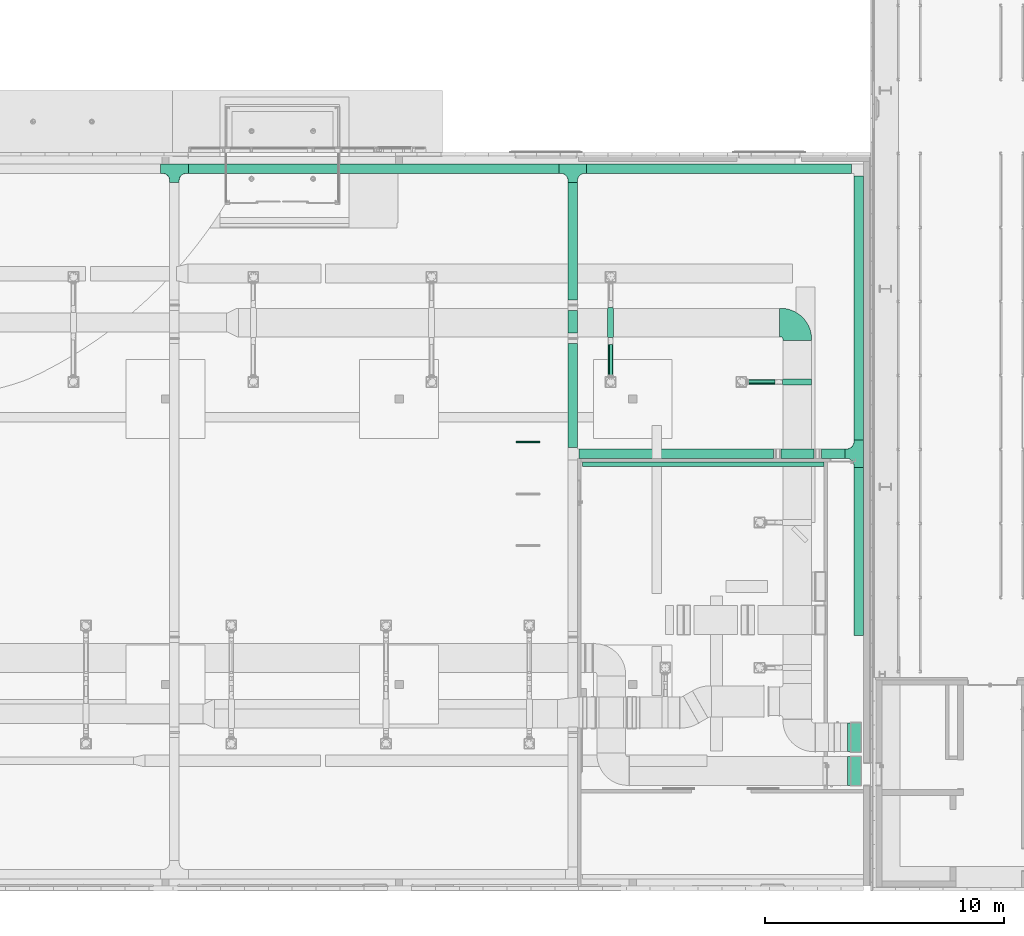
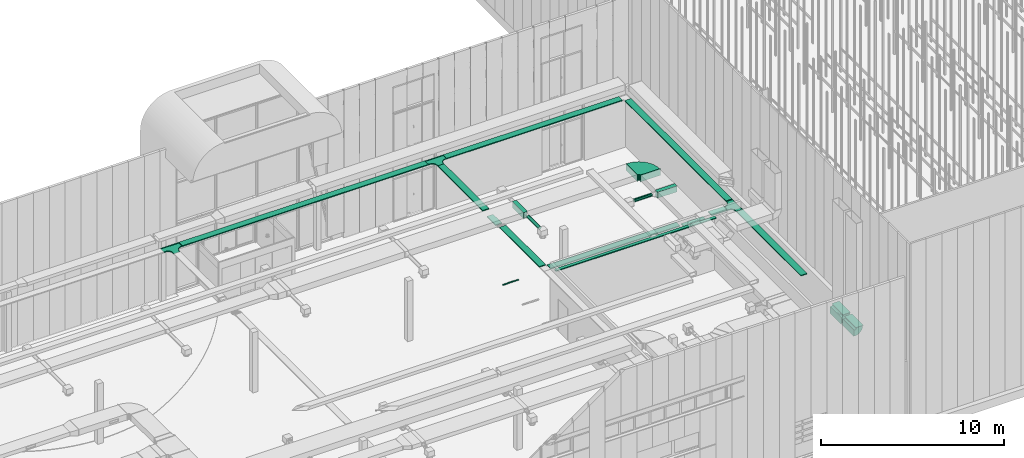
# One storey, part 257 of 302: 13 flow segments, 8 flow fittings, 1 flow terminal.
"""IFC2X3 building model written with IfcOpenShell, lengths in metres."""

from ifc_helpers import new_model, entity, si_unit, converted_unit, derived_unit, direction, frame, frame_2d, origin, origin_2d_with_axis, place, context, subcontext, project, spatial, polyline, circle_curve, parameter, trimmed, segment, composite_curve, rectangle, circle, outline, extrude, faceted_brep, source, transform, mapped, material, material_list, type_object, type_shapes, element, save


model = new_model("IFC2X3")

# Units and contexts
model_context = context("Model", 3, precision=1e-05, world=origin(), true_north=direction((6.12303176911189e-17, 1.0)))
body_context = subcontext(model_context, "Body", "Model", "MODEL_VIEW")
ifc_project = project(units=[si_unit("LENGTHUNIT", "METRE"), si_unit("AREAUNIT", "SQUARE_METRE"), si_unit("VOLUMEUNIT", "CUBIC_METRE"), converted_unit("PLANEANGLEUNIT", "DEGREE", entity("IfcRatioMeasure", 0.0174532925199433), si_unit("PLANEANGLEUNIT", "RADIAN"), dimensions=[0, 0, 0, 0, 0, 0, 0]), si_unit("MASSUNIT", "GRAM", prefix="KILO"), derived_unit("MASSDENSITYUNIT", [(si_unit("MASSUNIT", "GRAM", prefix="KILO"), 1), (si_unit("LENGTHUNIT", "METRE"), -3)]), derived_unit("MOMENTOFINERTIAUNIT", [(si_unit("LENGTHUNIT", "METRE"), 4)]), si_unit("TIMEUNIT", "SECOND"), si_unit("FREQUENCYUNIT", "HERTZ"), si_unit("THERMODYNAMICTEMPERATUREUNIT", "DEGREE_CELSIUS"), derived_unit("THERMALTRANSMITTANCEUNIT", [(si_unit("MASSUNIT", "GRAM", prefix="KILO"), 1), (si_unit("THERMODYNAMICTEMPERATUREUNIT", "KELVIN"), -1), (si_unit("TIMEUNIT", "SECOND"), -3)]), derived_unit("VOLUMETRICFLOWRATEUNIT", [(si_unit("LENGTHUNIT", "METRE"), 3), (si_unit("TIMEUNIT", "SECOND"), -1)]), si_unit("ELECTRICCURRENTUNIT", "AMPERE"), si_unit("ELECTRICVOLTAGEUNIT", "VOLT"), si_unit("POWERUNIT", "WATT"), si_unit("FORCEUNIT", "NEWTON", prefix="KILO"), si_unit("ILLUMINANCEUNIT", "LUX"), si_unit("LUMINOUSFLUXUNIT", "LUMEN"), si_unit("LUMINOUSINTENSITYUNIT", "CANDELA"), derived_unit("USERDEFINED", [(si_unit("MASSUNIT", "GRAM", prefix="KILO"), -1), (si_unit("LENGTHUNIT", "METRE"), -2), (si_unit("TIMEUNIT", "SECOND"), 3), (si_unit("LUMINOUSFLUXUNIT", "LUMEN"), 1)]), derived_unit("LINEARVELOCITYUNIT", [(si_unit("LENGTHUNIT", "METRE"), 1), (si_unit("TIMEUNIT", "SECOND"), -1)]), si_unit("PRESSUREUNIT", "PASCAL"), derived_unit("USERDEFINED", [(si_unit("LENGTHUNIT", "METRE"), -2), (si_unit("MASSUNIT", "GRAM", prefix="KILO"), 1), (si_unit("TIMEUNIT", "SECOND"), -2)]), derived_unit("LINEARFORCEUNIT", [(si_unit("MASSUNIT", "GRAM", prefix="KILO"), 1), (si_unit("LENGTHUNIT", "METRE"), 1), (si_unit("TIMEUNIT", "SECOND"), -2), (si_unit("LENGTHUNIT", "METRE"), -1)]), derived_unit("PLANARFORCEUNIT", [(si_unit("MASSUNIT", "GRAM", prefix="KILO"), 1), (si_unit("LENGTHUNIT", "METRE"), 1), (si_unit("TIMEUNIT", "SECOND"), -2), (si_unit("LENGTHUNIT", "METRE"), -2)])], contexts=[model_context])

# Site, building, storey
site_placement = place(None, origin())
site = spatial("IfcSite", under=ifc_project, at=site_placement, Name="Default", CompositionType="ELEMENT")
building_placement = place(site_placement, origin())
building = spatial("IfcBuilding", under=site, at=building_placement, CompositionType="ELEMENT")
storey_placement = place(building_placement, frame((0.0, 0.0, -1.3)))
storey = spatial("IfcBuildingStorey", under=building, at=storey_placement, Name="00_EG", CompositionType="ELEMENT", Elevation=-1.3)

# Flow terminal
ifc_material_1 = material(Name="Zumtobel_Metal_White")
light_fixture_type = type_object("IfcLightFixtureType", Name="Zumtobel TECTON C (Lamp & Reflector):TECTON C LED L1000", PredefinedType="NOTDEFINED", material=ifc_material_1)
shared_shape_1 = source(origin(), body_context, "Body", "SweptSolid", [
    extrude(outline(polyline([(-0.0195125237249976, 0.0249999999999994), (-0.0195125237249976, -0.0250000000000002), (-0.00676730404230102, -0.0250000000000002), (-0.00676730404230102, -0.0300000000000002), (0.00923269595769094, -0.0300000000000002), (0.00923269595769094, -0.0280000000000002), (0.00723269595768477, -0.0270000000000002), (0.00723269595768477, -0.00749999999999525), (0.000232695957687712, 0.0), (0.00723269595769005, 0.0074999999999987), (0.00723269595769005, 0.0269999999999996), (0.00923269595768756, 0.0280000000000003), (0.00923269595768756, 0.0299999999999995), (-0.00676730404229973, 0.0299999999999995), (-0.00676730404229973, 0.0249999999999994), (-0.0195125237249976, 0.0249999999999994)])), frame((-0.574924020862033, -0.218643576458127, -0.51951252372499), z_axis=(-1.0, 0.0, 0.0), x_axis=(0.0, 0.0, -1.0)), (0.0, 0.0, -1.0), 1.0),
])
type_shapes(light_fixture_type, [shared_shape_1])
flow_terminal_placement = place(storey_placement, frame((-221.887546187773, 33.8240924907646, 4.79999999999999)))
element("IfcFlowTerminal", 1, at=flow_terminal_placement, inside=storey, type_object=light_fixture_type, material=ifc_material_1, Name="Zumtobel TECTON C (Lamp & Reflector):TECTON C LED L1000", ObjectType="Zumtobel TECTON C (Lamp & Reflector):TECTON C LED L1000", context=body_context, shape_type="MappedRepresentation", body=[
    mapped(shared_shape_1, transform((0.0, 0.0, 0.0), scale=1.0)),
])

# Flow segments
cable_carrier_segment_type = type_object("IfcCableCarrierSegmentType", Name="Kabeltrasse mit Formteilen:Channel Cable Tray", PredefinedType="CABLETRAYSEGMENT")
flow_segment_1_placement = place(storey_placement, origin())
element("IfcFlowSegment", 2, at=flow_segment_1_placement, inside=storey, type_object=cable_carrier_segment_type, Name="Kabeltrasse mit Formteilen:Channel Cable Tray", ObjectType="Kabeltrasse mit Formteilen:Channel Cable Tray", context=body_context, shape_type="SweptSolid", body=[
    extrude(rectangle(XDim=4.3444162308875, YDim=0.399999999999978, at=frame_2d((2.22044604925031e-15, -3.46389583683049e-14), x_axis=(1.0, 0.0))), frame((-220.085111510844, 35.5512970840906, 4.82), z_axis=(0.0, 0.0, 1.0), x_axis=(0.0, -1.0, 0.0)), (0.0, 0.0, 1.0), 0.0600000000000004),
])
flow_segment_2_placement = place(storey_placement, origin())
element("IfcFlowSegment", 3, at=flow_segment_2_placement, inside=storey, type_object=cable_carrier_segment_type, Name="Kabeltrasse mit Formteilen:Channel Cable Tray", ObjectType="Kabeltrasse mit Formteilen:Channel Cable Tray", context=body_context, shape_type="SweptSolid", body=[
    extrude(rectangle(XDim=15.5274999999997, YDim=0.399999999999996, at=frame_2d((-1.73194791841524e-14, 0.0), x_axis=(1.0, 0.0))), frame((-228.428861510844, 45.0580889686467, 4.82), z_axis=(0.0, 0.0, 1.0), x_axis=(-1.0, 0.0, 0.0)), (0.0, 0.0, 1.0), 0.0600000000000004),
])
flow_segment_3_placement = place(storey_placement, origin())
element("IfcFlowSegment", 4, at=flow_segment_3_placement, inside=storey, type_object=cable_carrier_segment_type, Name="Kabeltrasse mit Formteilen:Channel Cable Tray", ObjectType="Kabeltrasse mit Formteilen:Channel Cable Tray", context=body_context, shape_type="SweptSolid", body=[
    extrude(rectangle(XDim=11.0589999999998, YDim=0.399999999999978, at=frame_2d((0.0, 1.73194791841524e-14), x_axis=(1.0, 0.0))), frame((-208.110111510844, 39.2285889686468, 4.82), z_axis=(0.0, 0.0, 1.0), x_axis=(0.0, 1.0, 0.0)), (0.0, 0.0, 1.0), 0.0599999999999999),
])
flow_segment_4_placement = place(storey_placement, origin())
element("IfcFlowSegment", 5, at=flow_segment_4_placement, inside=storey, type_object=cable_carrier_segment_type, Name="Kabeltrasse mit Formteilen:Channel Cable Tray", ObjectType="Kabeltrasse mit Formteilen:Channel Cable Tray", context=body_context, shape_type="SweptSolid", body=[
    extrude(rectangle(XDim=0.969070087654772, YDim=0.399999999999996, at=frame_2d((1.73472347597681e-14, -2.16493489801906e-15), x_axis=(1.0, 0.0))), frame((-209.174646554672, 33.1190889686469, 4.82000000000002), z_axis=(0.0, 0.0, 1.0), x_axis=(-1.0, 0.0, 0.0)), (0.0, 0.0, 1.0), 0.0600000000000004),
])
flow_segment_5_placement = place(storey_placement, origin())
element("IfcFlowSegment", 6, at=flow_segment_5_placement, inside=storey, type_object=cable_carrier_segment_type, Name="Kabeltrasse mit Formteilen:Channel Cable Tray", ObjectType="Kabeltrasse mit Formteilen:Channel Cable Tray", context=body_context, shape_type="SweptSolid", body=[
    extrude(rectangle(XDim=7.04100000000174, YDim=0.399999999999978, at=origin_2d_with_axis()), frame((-208.110111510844, 29.018588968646, 4.82), z_axis=(0.0, 0.0, 1.0), x_axis=(0.0, -1.0, 0.0)), (0.0, 0.0, 1.0), 0.0600000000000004),
])
flow_segment_6_placement = place(storey_placement, origin())
element("IfcFlowSegment", 7, at=flow_segment_6_placement, inside=storey, type_object=cable_carrier_segment_type, Name="Kabeltrasse mit Formteilen:Channel Cable Tray", ObjectType="Kabeltrasse mit Formteilen:Channel Cable Tray", context=body_context, shape_type="SweptSolid", body=[
    extrude(rectangle(XDim=10.125, YDim=0.199999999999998, at=frame_2d((1.73194791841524e-14, 2.16493489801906e-15), x_axis=(1.0, 0.0))), frame((-214.622611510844, 32.6730889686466, 4.82)), (0.0, 0.0, 1.0), 0.0600000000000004),
])
flow_segment_7_placement = place(storey_placement, origin())
element("IfcFlowSegment", 8, at=flow_segment_7_placement, inside=storey, type_object=cable_carrier_segment_type, Name="Kabeltrasse mit Formteilen:Channel Cable Tray", ObjectType="Kabeltrasse mit Formteilen:Channel Cable Tray", context=body_context, shape_type="SweptSolid", body=[
    extrude(rectangle(XDim=11.0949999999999, YDim=0.399999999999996, at=frame_2d((-1.73194791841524e-14, 4.32986979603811e-15), x_axis=(1.0, 0.0))), frame((-213.957611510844, 45.0580889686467, 4.82), z_axis=(0.0, 0.0, 1.0), x_axis=(-1.0, 0.0, 0.0)), (0.0, 0.0, 1.0), 0.0600000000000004),
])
flow_segment_8_placement = place(storey_placement, origin())
element("IfcFlowSegment", 9, at=flow_segment_8_placement, inside=storey, type_object=cable_carrier_segment_type, Name="Kabeltrasse mit Formteilen:Channel Cable Tray", ObjectType="Kabeltrasse mit Formteilen:Channel Cable Tray", context=body_context, shape_type="SweptSolid", body=[
    extrude(rectangle(XDim=4.92184122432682, YDim=0.399999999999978, at=frame_2d((0.0, -1.73194791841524e-14), x_axis=(1.0, 0.0))), frame((-220.085111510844, 42.0171683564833, 4.82), z_axis=(0.0, 0.0, 1.0), x_axis=(0.0, -1.0, 0.0)), (0.0, 0.0, 1.0), 0.0599999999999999),
])
flow_segment_9_placement = place(storey_placement, origin())
element("IfcFlowSegment", 10, at=flow_segment_9_placement, inside=storey, type_object=cable_carrier_segment_type, Name="Kabeltrasse mit Formteilen:Channel Cable Tray", ObjectType="Kabeltrasse mit Formteilen:Channel Cable Tray", context=body_context, shape_type="SweptSolid", body=[
    extrude(rectangle(XDim=0.948780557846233, YDim=0.399999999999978, at=frame_2d((0.0, -3.46389583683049e-14), x_axis=(1.0, 0.0))), frame((-220.085111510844, 38.6398764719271, 4.69999999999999), z_axis=(0.0, 0.0, 1.0), x_axis=(0.0, -1.0, 0.0)), (0.0, 0.0, 1.0), 0.0600000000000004),
])
flow_segment_10_placement = place(storey_placement, origin())
element("IfcFlowSegment", 11, at=flow_segment_10_placement, inside=storey, type_object=cable_carrier_segment_type, Name="Kabeltrasse mit Formteilen:Channel Cable Tray", ObjectType="Kabeltrasse mit Formteilen:Channel Cable Tray", context=body_context, shape_type="SweptSolid", body=[
    extrude(rectangle(XDim=8.15407008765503, YDim=0.400000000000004, at=frame_2d((1.73194791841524e-14, 4.32986979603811e-15), x_axis=(1.0, 0.0))), frame((-215.748076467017, 33.1190889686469, 4.82)), (0.0, 0.0, 1.0), 0.0600000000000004),
])
flow_segment_11_placement = place(storey_placement, origin())
element("IfcFlowSegment", 12, at=flow_segment_11_placement, inside=storey, type_object=cable_carrier_segment_type, Name="Kabeltrasse mit Formteilen:Channel Cable Tray", ObjectType="Kabeltrasse mit Formteilen:Channel Cable Tray", context=body_context, shape_type="SweptSolid", body=[
    extrude(rectangle(XDim=1.37646877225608, YDim=0.400000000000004, at=origin_2d_with_axis()), frame((-210.665111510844, 33.1190889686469, 4.60999999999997)), (0.0, 0.0, 1.0), 0.0600000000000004),
])

# Flow fittings
ifc_material_2 = material(Name="<Unnamed>")
cable_carrier_fitting_type = type_object("IfcCableCarrierFittingType", Name="Kabeltrasse - T-Stück mit Radius:300 mm Radius", PredefinedType="NOTDEFINED", material=ifc_material_2)
shared_shape_2 = source(origin(), body_context, "Body", "Brep", [
    faceted_brep([(0.38422295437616, -0.220489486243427, 0.0299999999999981), (0.3319177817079, -0.248447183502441, 0.0299999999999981), (0.286071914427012, -0.286071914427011, 0.0299999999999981), (0.248447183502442, -0.331917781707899, 0.0299999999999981), (0.220489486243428, -0.384222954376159, 0.0299999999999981), (0.203273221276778, -0.440977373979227, 0.0299999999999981), (0.197460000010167, -0.500000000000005, 0.0299999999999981), (0.197460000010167, -0.580000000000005, 0.0299999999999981), (0.200000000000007, -0.580000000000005, 0.0299999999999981), (0.200000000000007, -0.500000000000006, 0.0299999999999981), (0.205764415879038, -0.441472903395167, 0.0299999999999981), (0.222836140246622, -0.385194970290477, 0.0299999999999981), (0.250559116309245, -0.333328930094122, 0.0299999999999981), (0.287867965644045, -0.287867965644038, 0.0299999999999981), (0.33332893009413, -0.250559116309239, 0.0299999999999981), (0.385194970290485, -0.222836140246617, 0.0299999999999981), (0.441472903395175, -0.205764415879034, 0.0299999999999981), (0.50000000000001, -0.200000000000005, 0.0299999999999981), (0.580000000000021, -0.200000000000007, 0.0299999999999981), (0.580000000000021, -0.197460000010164, 0.0299999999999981), (0.500000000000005, -0.197460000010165, 0.0299999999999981), (0.440977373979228, -0.203273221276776, 0.0299999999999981), (-0.49999999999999, -0.197460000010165, 0.0299999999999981), (-0.579999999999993, -0.197460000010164, 0.0299999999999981), (-0.579999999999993, -0.200000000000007, 0.0299999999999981), (-0.500000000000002, -0.200000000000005, 0.0299999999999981), (-0.441472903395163, -0.205764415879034, 0.0299999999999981), (-0.385194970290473, -0.222836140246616, 0.0299999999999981), (-0.333328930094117, -0.250559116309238, 0.0299999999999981), (-0.287867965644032, -0.287867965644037, 0.0299999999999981), (-0.250559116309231, -0.333328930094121, 0.0299999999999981), (-0.222836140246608, -0.385194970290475, 0.0299999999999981), (-0.205764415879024, -0.441472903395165, 0.0299999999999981), (-0.199999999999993, -0.500000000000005, 0.0299999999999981), (-0.199999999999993, -0.580000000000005, 0.0299999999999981), (-0.197460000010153, -0.580000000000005, 0.0299999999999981), (-0.197460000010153, -0.500000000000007, 0.0299999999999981), (-0.203273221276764, -0.440977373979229, 0.0299999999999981), (-0.220489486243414, -0.384222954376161, 0.0299999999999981), (-0.248447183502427, -0.331917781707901, 0.0299999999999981), (-0.286071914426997, -0.286071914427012, 0.0299999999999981), (-0.331917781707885, -0.248447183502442, 0.0299999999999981), (-0.384222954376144, -0.220489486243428, 0.0299999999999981), (-0.440977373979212, -0.203273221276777, 0.0299999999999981), (0.580000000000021, 0.199999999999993, 0.0299999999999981), (-0.579999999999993, 0.199999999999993, 0.0299999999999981), (-0.579999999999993, 0.197460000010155, 0.0299999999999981), (0.580000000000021, 0.197460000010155, 0.0299999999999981), (-0.199999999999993, -0.500000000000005, -0.0300000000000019), (-0.205764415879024, -0.441472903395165, -0.0300000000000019), (-0.222836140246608, -0.385194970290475, -0.0300000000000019), (-0.250559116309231, -0.333328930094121, -0.0300000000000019), (-0.287867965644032, -0.287867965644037, -0.0300000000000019), (-0.333328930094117, -0.250559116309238, -0.0300000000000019), (-0.385194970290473, -0.222836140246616, -0.0300000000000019), (-0.441472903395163, -0.205764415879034, -0.0300000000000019), (-0.499999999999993, -0.200000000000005, -0.0300000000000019), (-0.579999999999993, -0.200000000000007, -0.0300000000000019), (-0.579999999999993, 0.199999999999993, -0.0300000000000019), (0.580000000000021, 0.199999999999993, -0.0300000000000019), (0.580000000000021, -0.200000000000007, -0.0300000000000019), (0.500000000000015, -0.200000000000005, -0.0300000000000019), (0.441472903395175, -0.205764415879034, -0.0300000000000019), (0.385194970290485, -0.222836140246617, -0.0300000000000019), (0.33332893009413, -0.250559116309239, -0.0300000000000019), (0.287867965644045, -0.287867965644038, -0.0300000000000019), (0.250559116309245, -0.333328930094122, -0.0300000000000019), (0.222836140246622, -0.385194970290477, -0.0300000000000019), (0.205764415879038, -0.441472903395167, -0.0300000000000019), (0.200000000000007, -0.500000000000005, -0.0300000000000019), (0.200000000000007, -0.580000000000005, -0.0300000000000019), (-0.199999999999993, -0.580000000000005, -0.0300000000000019), (-0.199999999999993, -0.500000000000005, -0.0274600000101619), (0.197460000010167, -0.580000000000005, -0.0274600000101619), (-0.197460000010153, -0.580000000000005, -0.0274600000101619), (-0.197460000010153, -0.500000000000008, -0.0274600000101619), (-0.203273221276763, -0.440977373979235, -0.0274600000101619), (-0.220489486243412, -0.384222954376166, -0.0274600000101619), (-0.248447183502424, -0.331917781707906, -0.0274600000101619), (-0.286071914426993, -0.286071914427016, -0.0274600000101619), (-0.33191778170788, -0.248447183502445, -0.0274600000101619), (-0.384222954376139, -0.22048948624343, -0.0274600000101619), (-0.440977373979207, -0.203273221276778, -0.0274600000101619), (-0.499999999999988, -0.197460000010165, -0.0274600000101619), (-0.579999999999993, -0.197460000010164, -0.0274600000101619), (0.580000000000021, -0.197460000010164, -0.0274600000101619), (0.500000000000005, -0.197460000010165, -0.0274600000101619), (-0.579999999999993, 0.197460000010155, -0.0274600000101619), (-0.500000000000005, -0.200000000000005, -0.0274600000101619), (0.500000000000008, -0.200000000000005, -0.0274600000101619), (0.200000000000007, -0.500000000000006, -0.0274600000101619), (0.580000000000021, 0.197460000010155, -0.0274600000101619), (0.440977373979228, -0.203273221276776, -0.0274600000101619), (0.38422295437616, -0.220489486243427, -0.0274600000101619), (0.3319177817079, -0.248447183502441, -0.0274600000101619), (0.286071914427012, -0.286071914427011, -0.0274600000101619), (0.248447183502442, -0.331917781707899, -0.0274600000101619), (0.220489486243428, -0.384222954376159, -0.0274600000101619), (0.203273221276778, -0.440977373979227, -0.0274600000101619), (0.197460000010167, -0.500000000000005, -0.0274600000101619)], [[[0, 1, 2, 3, 4, 5, 6, 7, 8, 9, 10, 11, 12, 13, 14, 15, 16, 17, 18, 19, 20, 21]], [[22, 23, 24, 25, 26, 27, 28, 29, 30, 31, 32, 33, 34, 35, 36, 37, 38, 39, 40, 41, 42, 43]], [[44, 45, 46, 47]], [[48, 49, 50, 51, 52, 53, 54, 55, 56, 57, 58, 59, 60, 61, 62, 63, 64, 65, 66, 67, 68, 69, 70, 71]], [[34, 33, 72, 48, 71]], [[35, 34, 71, 70, 8, 7, 73, 74]], [[36, 35, 74, 75]], [[37, 36, 75, 76]], [[76, 77, 38, 37]], [[78, 39, 38, 77]], [[39, 78, 79, 40]], [[41, 80, 81, 42]], [[42, 81, 82, 43]], [[43, 82, 83, 22]], [[79, 80, 41, 40]], [[23, 22, 83, 84]], [[20, 19, 85, 86]], [[46, 45, 58, 57, 24, 23, 84, 87]], [[25, 24, 57, 56, 88]], [[18, 17, 89, 61, 60]], [[26, 25, 88, 56, 55]], [[27, 54, 53, 28]], [[26, 55, 54, 27]], [[28, 53, 52, 29]], [[31, 30, 51, 50]], [[72, 33, 32, 49, 48]], [[49, 32, 31, 50]], [[51, 30, 29, 52]], [[10, 9, 90, 69, 68]], [[11, 10, 68, 67]], [[12, 11, 67, 66]], [[13, 12, 66, 65]], [[14, 13, 65, 64]], [[16, 15, 63, 62]], [[14, 64, 63, 15]], [[16, 62, 61, 89, 17]], [[19, 18, 60, 59, 44, 47, 91, 85]], [[21, 20, 86, 92]], [[92, 93, 0, 21]], [[94, 1, 0, 93]], [[95, 2, 1, 94]], [[3, 96, 97, 4]], [[4, 97, 98, 5]], [[5, 98, 99, 6]], [[95, 96, 3, 2]], [[7, 6, 99, 73]], [[9, 8, 70, 69, 90]], [[45, 44, 59, 58]], [[47, 46, 87, 91]], [[87, 84, 83, 82, 81, 80, 79, 78, 77, 76, 75, 74, 73, 99, 98, 97, 96, 95, 94, 93, 92, 86, 85, 91]]]),
])
type_shapes(cable_carrier_fitting_type, [shared_shape_2])
flow_fitting_1_placement = place(storey_placement, frame((-236.772611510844, 45.0580889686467, 4.85)))
element("IfcFlowFitting", 13, at=flow_fitting_1_placement, inside=storey, type_object=cable_carrier_fitting_type, material=ifc_material_2, Name="Kabeltrasse - T-Stück mit Radius:300 mm Radius", ObjectType="Kabeltrasse - T-Stück mit Radius:300 mm Radius", context=body_context, shape_type="MappedRepresentation", body=[
    mapped(shared_shape_2, transform((0.0, 0.0, 0.0), scale=1.0)),
])
flow_fitting_2_placement = place(storey_placement, frame((-208.110111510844, 33.1190889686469, 4.85), z_axis=(0.0, 0.0, 1.0), x_axis=(0.0, -1.0, 0.0)))
element("IfcFlowFitting", 14, at=flow_fitting_2_placement, inside=storey, type_object=cable_carrier_fitting_type, material=ifc_material_2, Name="Kabeltrasse - T-Stück mit Radius:300 mm Radius", ObjectType="Kabeltrasse - T-Stück mit Radius:300 mm Radius", context=body_context, shape_type="MappedRepresentation", body=[
    mapped(shared_shape_2, transform((0.0, 0.0, 0.0), scale=1.0)),
])
flow_fitting_3_placement = place(storey_placement, frame((-220.085111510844, 45.0580889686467, 4.85)))
element("IfcFlowFitting", 15, at=flow_fitting_3_placement, inside=storey, type_object=cable_carrier_fitting_type, material=ifc_material_2, Name="Kabeltrasse - T-Stück mit Radius:300 mm Radius", ObjectType="Kabeltrasse - T-Stück mit Radius:300 mm Radius", context=body_context, shape_type="MappedRepresentation", body=[
    mapped(shared_shape_2, transform((0.0, 0.0, 0.0), scale=1.0)),
])
ifc_material_list_1 = material_list([ifc_material_2, ifc_material_2, ifc_material_2, ifc_material_2, ifc_material_2])
duct_fitting_type_1 = type_object("IfcDuctFittingType", Name="Bogen rechteck BS:Standard", PredefinedType="NOTDEFINED", material=ifc_material_list_1)
shared_shape_3 = source(origin(), body_context, "Body", "SweptSolid", [
    extrude(rectangle(XDim=0.0550000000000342, YDim=1.2, at=frame_2d((6.76542155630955e-17, -5.55111512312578e-17), x_axis=(1.0, 0.0))), frame((0.0, 0.727499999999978, -0.2), z_axis=(0.0, 0.0, 1.0), x_axis=(0.0, 1.0, 0.0)), (0.0, 0.0, 1.0), 0.4),
    extrude(rectangle(XDim=1.19999999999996, YDim=0.0549999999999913, at=frame_2d((1.11577413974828e-14, 8.93382590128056e-15), x_axis=(1.0, 0.0))), frame((-0.727499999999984, 0.0, -0.2), z_axis=(0.0, 0.0, 1.0), x_axis=(0.0, -1.0, 0.0)), (0.0, 0.0, 1.0), 0.4),
    extrude(outline(composite_curve([segment(polyline([(-0.949999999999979, -0.35), (0.250000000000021, -0.35)]), True, "CONTINUOUS"), segment(trimmed(circle_curve(frame_2d((0.350000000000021, -0.35), x_axis=(0.0, 1.0)), 0.0999999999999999), [parameter(0.0)], [parameter(89.9999999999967)], True, "PARAMETER"), False, "CONTINUOUS"), segment(polyline([(0.350000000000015, -0.25), (0.349999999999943, 0.95)]), True, "CONTINUOUS"), segment(trimmed(circle_curve(frame_2d((0.350000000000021, -0.35), x_axis=(0.0, 1.0)), 1.3), [parameter(0.0)], [parameter(89.9999999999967)], True, "PARAMETER"), True, "CONTINUOUS")], self_intersect=False)), frame((-0.349999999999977, 0.350000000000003, -0.2), z_axis=(0.0, 0.0, 1.0), x_axis=(-1.0, 0.0, 0.0)), (0.0, 0.0, 1.0), 0.4),
    extrude(rectangle(XDim=0.00500000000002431, YDim=1.26, at=frame_2d((9.40740541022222e-15, 0.0), x_axis=(1.0, 0.0))), frame((-0.752499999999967, 0.0, -0.23)), (0.0, 0.0, 1.0), 0.46),
    extrude(rectangle(XDim=0.00500000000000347, YDim=1.26, at=origin_2d_with_axis()), frame((0.0, 0.752499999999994, -0.23), z_axis=(0.0, 0.0, 1.0), x_axis=(0.0, 1.0, 0.0)), (0.0, 0.0, 1.0), 0.46),
])
type_shapes(duct_fitting_type_1, [shared_shape_3])
flow_fitting_4_placement = place(storey_placement, frame((-210.679540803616, 38.6082258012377, 4.90999999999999), z_axis=(0.0, 0.0, 1.0), x_axis=(0.0, 1.0, 0.0)))
element("IfcFlowFitting", 16, at=flow_fitting_4_placement, inside=storey, type_object=duct_fitting_type_1, material=ifc_material_2, Name="Bogen rechteck BS:Standard", ObjectType="Bogen rechteck BS:Standard", context=body_context, shape_type="MappedRepresentation", body=[
    mapped(shared_shape_3, transform((0.0, 0.0, 0.0), scale=1.0)),
])

# Flow segments
duct_segment_type = type_object("IfcDuctSegmentType", Name="Rund:STR_Segment_RND_GS_EA", PredefinedType="NOTDEFINED")
flow_segment_12_placement = place(storey_placement, origin())
element("IfcFlowSegment", 17, at=flow_segment_12_placement, inside=storey, type_object=duct_segment_type, Name="Rund:STR_Segment_RND_GS_EA", ObjectType="Rund:STR_Segment_RND_GS_EA", context=body_context, shape_type="SweptSolid", body=[
    extrude(circle(Radius=0.1, at=frame_2d((0.0, 1.08286712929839e-15), x_axis=(1.0, 0.0))), frame((-218.500835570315, 36.4181484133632, 4.985), z_axis=(0.0, 1.0, 0.0), x_axis=(-1.0, 0.0, 0.0)), (0.0, 0.0, 1.0), 1.26507738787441),
])
flow_segment_13_placement = place(storey_placement, origin())
element("IfcFlowSegment", 18, at=flow_segment_13_placement, inside=storey, type_object=duct_segment_type, Name="Rund:STR_Segment_RND_GS_EA", ObjectType="Rund:STR_Segment_RND_GS_EA", context=body_context, shape_type="SweptSolid", body=[
    extrude(circle(Radius=0.1, at=frame_2d((-4.33146851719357e-15, -1.08286712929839e-15), x_axis=(1.0, 0.0))), frame((-212.723736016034, 36.1239488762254, 4.985), z_axis=(1.0, 0.0, 0.0), x_axis=(0.0, 1.0, 0.0)), (0.0, 0.0, 1.0), 1.11919521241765),
])

# Flow fittings
duct_fitting_type_2 = type_object("IfcDuctFittingType", Name="STR_RCT_Cross:STR_Cross_RCT_GS_RA", PredefinedType="NOTDEFINED", material=ifc_material_2)
shared_shape_4 = source(origin(), body_context, "Body", "SweptSolid", [
    extrude(outline(polyline([(-0.624999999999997, 0.0999999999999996), (-0.624999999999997, -0.1), (-0.600000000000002, -0.1), (-0.600000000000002, -0.124999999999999), (0.599999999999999, -0.124999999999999), (0.599999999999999, -0.1), (0.625000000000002, -0.1), (0.625000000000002, 0.0999999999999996), (0.599999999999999, 0.0999999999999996), (0.599999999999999, 0.125000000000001), (-0.600000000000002, 0.125000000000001), (-0.600000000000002, 0.0999999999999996), (-0.624999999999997, 0.0999999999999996)])), frame((0.0, 0.0, -0.200000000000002), z_axis=(0.0, 0.0, -1.0), x_axis=(0.0, 1.0, 0.0)), (0.0, 0.0, -1.0), 0.4),
])
type_shapes(duct_fitting_type_2, [shared_shape_4])
flow_fitting_5_placement = place(storey_placement, frame((-218.500835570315, 38.6082258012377, 4.91), z_axis=(0.0, 0.0, 1.0), x_axis=(-1.0, 0.0, 0.0)))
element("IfcFlowFitting", 19, at=flow_fitting_5_placement, inside=storey, type_object=duct_fitting_type_2, material=ifc_material_2, Name="STR_RCT_Cross:STR_Cross_RCT_GS_RA", ObjectType="STR_RCT_Cross:STR_Cross_RCT_GS_RA", context=body_context, shape_type="MappedRepresentation", body=[
    mapped(shared_shape_4, transform((0.0, 0.0, 0.0), scale=1.0)),
])
duct_fitting_type_3 = type_object("IfcDuctFittingType", Name="STR_RCT_Tee:STR_Tee_RCT_GS_RA", PredefinedType="NOTDEFINED", material=ifc_material_2)
shared_shape_5 = source(origin(), body_context, "Body", "SweptSolid", [
    extrude(outline(polyline([(-0.125, 0.29375), (-0.125, -0.90625), (0.125, -0.90625), (0.125, 0.29375), (0.0999999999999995, 0.29375), (0.0999999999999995, 0.318749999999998), (-0.100000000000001, 0.318749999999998), (-0.100000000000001, 0.29375), (-0.125, 0.29375)])), frame((0.0, -0.306250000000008, -0.200000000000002), z_axis=(0.0, 0.0, -1.0), x_axis=(1.0, 0.0, 0.0)), (0.0, 0.0, -1.0), 0.4),
])
type_shapes(duct_fitting_type_3, [shared_shape_5])
flow_fitting_6_placement = place(storey_placement, frame((-210.679540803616, 36.1239488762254, 4.91), z_axis=(0.0, 0.0, 1.0), x_axis=(0.0, -1.0, 0.0)))
element("IfcFlowFitting", 20, at=flow_fitting_6_placement, inside=storey, type_object=duct_fitting_type_3, material=ifc_material_2, Name="STR_RCT_Tee:STR_Tee_RCT_GS_RA", ObjectType="STR_RCT_Tee:STR_Tee_RCT_GS_RA", context=body_context, shape_type="MappedRepresentation", body=[
    mapped(shared_shape_5, transform((0.0, 0.0, 0.0), scale=1.0)),
])
ifc_material_list_2 = material_list([ifc_material_2, ifc_material_2, ifc_material_2, ifc_material_2, ifc_material_2])
ifc_material_list_3 = material_list([ifc_material_2, ifc_material_2, ifc_material_2, ifc_material_2, ifc_material_2])
duct_fitting_type_4 = type_object("IfcDuctFittingType", Name="Bogen rechteck BS:Standard", PredefinedType="NOTDEFINED", material=ifc_material_list_3)
shared_shape_6 = source(origin(), body_context, "Body", "SweptSolid", [
    extrude(rectangle(XDim=0.0550000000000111, YDim=0.4, at=frame_2d((3.46944695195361e-17, -2.77555756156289e-17), x_axis=(1.0, 0.0))), frame((0.0, 0.327499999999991, -0.6), z_axis=(0.0, 0.0, 1.0), x_axis=(0.0, 1.0, 0.0)), (0.0, 0.0, 1.0), 1.2),
    extrude(rectangle(XDim=0.399999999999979, YDim=0.0549999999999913, at=frame_2d((5.21804821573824e-15, 2.96117297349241e-15), x_axis=(1.0, 0.0))), frame((-0.327499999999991, 0.0, -0.6), z_axis=(0.0, 0.0, 1.0), x_axis=(0.0, -1.0, 0.0)), (0.0, 0.0, 1.0), 1.2),
    extrude(outline(composite_curve([segment(polyline([(-0.349999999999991, -0.15), (0.050000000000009, -0.15)]), True, "CONTINUOUS"), segment(trimmed(circle_curve(frame_2d((0.150000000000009, -0.15), x_axis=(0.0, 1.0)), 0.1), [parameter(0.0)], [parameter(89.9999999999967)], True, "PARAMETER"), False, "CONTINUOUS"), segment(polyline([(0.150000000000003, -0.0499999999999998), (0.149999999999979, 0.35)]), True, "CONTINUOUS"), segment(trimmed(circle_curve(frame_2d((0.150000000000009, -0.15), x_axis=(0.0, 1.0)), 0.5), [parameter(0.0)], [parameter(89.9999999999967)], True, "PARAMETER"), True, "CONTINUOUS")], self_intersect=False)), frame((-0.149999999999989, 0.150000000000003, -0.6), z_axis=(0.0, 0.0, 1.0), x_axis=(-1.0, 0.0, 0.0)), (0.0, 0.0, 1.0), 1.2),
    extrude(rectangle(XDim=0.00500000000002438, YDim=0.46, at=frame_2d((3.4178389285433e-15, 1.38777878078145e-17), x_axis=(1.0, 0.0))), frame((-0.352499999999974, 0.0, -0.63)), (0.0, 0.0, 1.0), 1.26),
    extrude(rectangle(XDim=0.0050000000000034, YDim=0.46, at=origin_2d_with_axis()), frame((0.0, 0.352499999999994, -0.63), z_axis=(0.0, 0.0, 1.0), x_axis=(0.0, 1.0, 0.0)), (0.0, 0.0, 1.0), 1.26),
])
type_shapes(duct_fitting_type_4, [shared_shape_6])
flow_fitting_7_placement = place(storey_placement, frame((-208.230493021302, 19.8229563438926, 4.91), z_axis=(0.0, 1.0, 0.0), x_axis=(0.0, 0.0, -1.0)))
element("IfcFlowFitting", 21, at=flow_fitting_7_placement, inside=storey, type_object=duct_fitting_type_4, material=ifc_material_list_2, Name="Bogen rechteck BS:Standard", ObjectType="Bogen rechteck BS:Standard", context=body_context, shape_type="MappedRepresentation", body=[
    mapped(shared_shape_6, transform((0.0, 0.0, 0.0), scale=1.0)),
])
flow_fitting_8_placement = place(storey_placement, frame((-208.230493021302, 21.234013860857, 4.91), z_axis=(0.0, 1.0, 0.0), x_axis=(0.0, 0.0, -1.0)))
element("IfcFlowFitting", 22, at=flow_fitting_8_placement, inside=storey, type_object=duct_fitting_type_4, material=ifc_material_2, Name="Bogen rechteck BS:Standard", ObjectType="Bogen rechteck BS:Standard", context=body_context, shape_type="MappedRepresentation", body=[
    mapped(shared_shape_6, transform((0.0, 0.0, 0.0), scale=1.0)),
])

save(model, "model.ifc")
